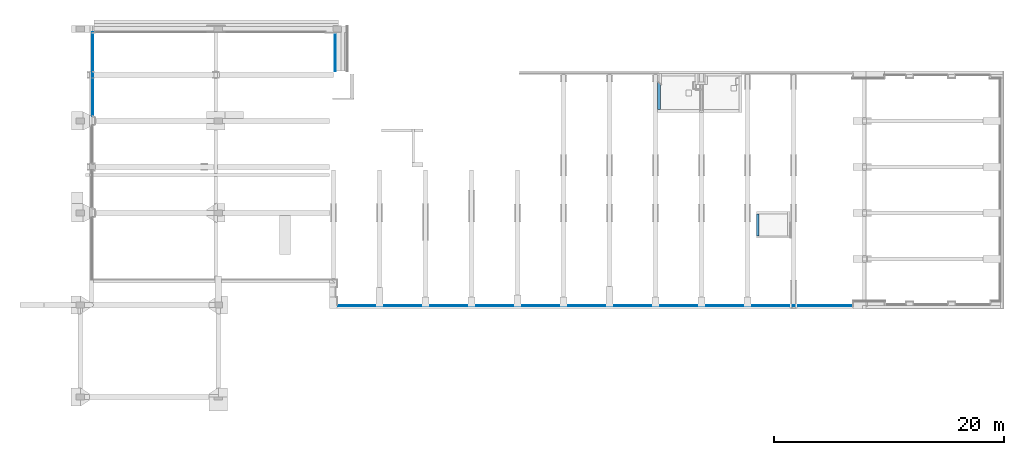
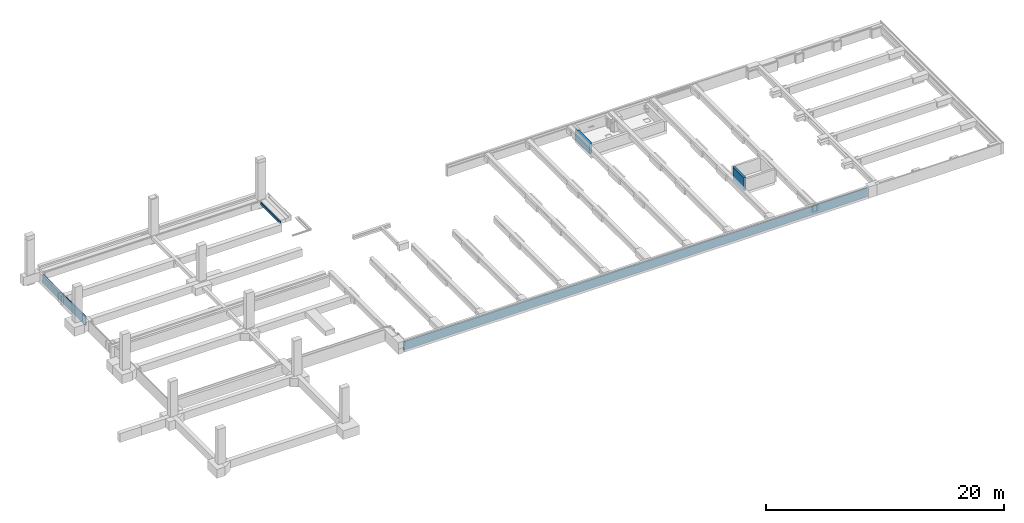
# One storey, part 11 of 17: 5 walls.
"""IFC2X3 building model written with IfcOpenShell, lengths in millimetres."""

from ifc_helpers import new_model, entity, si_unit, converted_unit, derived_unit, money_unit, direction, frame, origin_with_axes, place, context, subcontext, project, spatial, faceted_brep, material, type_object, element, save


model = new_model("IFC2X3")

# Units and contexts
model_context = context("Model", 3, precision=0.01, world=origin_with_axes(), true_north=direction((0.0, 1.0)))
body_context = subcontext(model_context, "Body", "Model", "MODEL_VIEW")
ifc_project = project(units=[si_unit("LENGTHUNIT", "METRE", prefix="MILLI"), si_unit("AREAUNIT", "SQUARE_METRE"), si_unit("VOLUMEUNIT", "CUBIC_METRE"), converted_unit("PLANEANGLEUNIT", "DEGREE", entity("IfcPlaneAngleMeasure", 0.0174532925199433), si_unit("PLANEANGLEUNIT", "RADIAN"), dimensions=[0, 0, 0, 0, 0, 0, 0]), money_unit("EUR"), converted_unit("TIMEUNIT", "Year", entity("IfcTimeMeasure", 31557600.0), si_unit("TIMEUNIT", "SECOND"), dimensions=[0, 0, 1, 0, 0, 0, 0]), si_unit("MASSUNIT", "GRAM", prefix="KILO"), si_unit("THERMODYNAMICTEMPERATUREUNIT", "DEGREE_CELSIUS"), si_unit("LUMINOUSINTENSITYUNIT", "LUMEN"), si_unit("ENERGYUNIT", "JOULE", prefix="MEGA"), derived_unit("THERMALCONDUCTANCEUNIT", [(si_unit("POWERUNIT", "WATT"), 1), (si_unit("LENGTHUNIT", "METRE"), -1), (si_unit("THERMODYNAMICTEMPERATUREUNIT", "KELVIN"), -1)]), derived_unit("SPECIFICHEATCAPACITYUNIT", [(si_unit("ENERGYUNIT", "JOULE"), 1), (si_unit("MASSUNIT", "GRAM", prefix="KILO"), -1), (si_unit("THERMODYNAMICTEMPERATUREUNIT", "KELVIN"), -1)]), derived_unit("MASSDENSITYUNIT", [(si_unit("MASSUNIT", "GRAM", prefix="KILO"), 1), (si_unit("VOLUMEUNIT", "CUBIC_METRE"), -1)])], contexts=[model_context])

# Site, building, storey
site_placement = place(None, origin_with_axes())
site = spatial("IfcSite", under=ifc_project, at=site_placement, Name="<site naam>", CompositionType="ELEMENT")
building_placement = place(site_placement, origin_with_axes())
building = spatial("IfcBuilding", under=site, at=building_placement, Name="<Naam gebouw>", CompositionType="ELEMENT")
storey_placement = place(building_placement, frame((0.0, 0.0, -1100.0), z_axis=(0.0, 0.0, 1.0), x_axis=(1.0, 0.0, 0.0)))
storey = spatial("IfcBuildingStorey", under=building, at=storey_placement, Name="-1 Fundering", CompositionType="ELEMENT", Elevation=-1100.0)

# Walls
ifc_material_1 = material(Name="ALG - ISOLATIE")
wall_type_1 = type_object("IfcWallType", Name="ALG - ISOLATIE 85", PredefinedType="NOTDEFINED")
wall_1_placement = place(storey_placement, frame((12300.74601963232, -125.0797075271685, -50.00000000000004), z_axis=(0.0, 0.0, 1.0), x_axis=(0.9999999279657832, 0.0003795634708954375, 0.0)))
element("IfcWall", 1, at=wall_1_placement, inside=storey, type_object=wall_type_1, material=ifc_material_1, Name="21_Binnenwand_ALG", context=body_context, shape_type="Brep", body=[
    faceted_brep([(44899.17106801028, 85.0000000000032, 900.0000000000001), (44899.17106801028, 0.0, 900.0000000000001), (44899.17106801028, 0.0, 0.0), (44899.17106801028, 85.00000000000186, 0.0), (39678.25677724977, 0.0, 900.0000000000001), (39678.28904014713, 85.00000000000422, 900.0000000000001), (39678.25677724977, 0.0, 870.0000000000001), (0.0, 0.0, 870.0000000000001), (0.0, 0.0, 0.0), (0.0, 85.00000000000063, 0.0), (0.0, 85.00000000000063, 870.0000000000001), (39678.28904014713, 85.00000000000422, 870.0000000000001)], [[[0, 1, 2, 3]], [[4, 1, 0, 5]], [[1, 4, 6, 7, 8, 2]], [[9, 3, 2, 8]], [[5, 0, 3, 9, 10, 11]], [[4, 5, 11, 6]], [[11, 10, 7, 6]], [[7, 10, 9, 8]]]),
])
wall_2_placement = place(storey_placement, frame((-8954.999999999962, 16420.45875379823, -100.0000000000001), z_axis=(0.0, 0.0, 1.0), x_axis=(0.0, 1.0, 0.0)))
element("IfcWall", 2, at=wall_2_placement, inside=storey, type_object=wall_type_1, material=ifc_material_1, Name="21_Binnenwand_ALG", context=body_context, shape_type="Brep", body=[
    faceted_brep([(7194.541246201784, -84.99999999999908, 299.9999928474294), (7194.541246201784, 0.0, 299.9999928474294), (7194.541246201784, 0.0, 920.0000000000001), (7194.541246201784, -84.99999999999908, 920.0000000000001), (7279.541246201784, -84.99999999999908, 299.9999928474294), (7279.541246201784, 0.0, 299.9999928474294), (7279.541246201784, 0.0, 0.0), (0.0, 0.0, 0.0), (0.0, 0.0, 920.0000000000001), (0.0, -84.99999999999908, 920.0000000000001), (0.0, -84.99999999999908, 0.0), (7279.541246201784, -84.99999999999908, 0.0)], [[[0, 1, 2, 3]], [[4, 5, 1, 0]], [[6, 7, 8, 2, 1, 5]], [[2, 8, 9, 3]], [[4, 0, 3, 9, 10, 11]], [[4, 11, 6, 5]], [[6, 11, 10, 7]], [[7, 10, 9, 8]]]),
])
wall_3_placement = place(storey_placement, frame((12200.41606438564, 23700.00000000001, 550.0000107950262), z_axis=(0.0, 0.0, 1.0), x_axis=(0.0, -1.0, 0.0)))
element("IfcWall", 3, at=wall_3_placement, inside=storey, type_object=wall_type_1, material=ifc_material_1, Name="21_Binnenwand_ALG", context=body_context, shape_type="Brep", body=[
    faceted_brep([(85.00000000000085, -85.00000000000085, 0.0), (85.00000000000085, -85.00000000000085, 269.9999892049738), (85.00000000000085, -5.994724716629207e-07, 269.9999892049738), (85.00000000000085, 0.0, 0.0), (3375.673568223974, -85.00000000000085, 0.0), (3375.673568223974, -85.00000000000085, 269.9999892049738), (3375.673568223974, -5.994724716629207e-07, 269.9999892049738), (3375.673568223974, 0.0, 0.0)], [[[0, 1, 2, 3]], [[4, 5, 1, 0]], [[5, 6, 2, 1]], [[3, 2, 6, 7]], [[0, 3, 7, 4]], [[7, 6, 5, 4]]]),
])
ifc_material_2 = material(Name="beton")
wall_type_2 = type_object("IfcWallType", Name="beton 250", PredefinedType="NOTDEFINED")
wall_4_placement = place(storey_placement, frame((40175.00000000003, 19400.00008434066, -96.99999999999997), z_axis=(0.0, 0.0, 1.0), x_axis=(0.0, -1.0, 0.0)))
element("IfcWall", 4, at=wall_4_placement, inside=storey, type_object=wall_type_2, material=ifc_material_2, Name="22_Binnenwand_beton", context=body_context, shape_type="Brep", body=[
    faceted_brep([(249.9999999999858, 250.0, 26.99999999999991), (-7.393133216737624e-05, -3.569532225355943e-05, 26.99999999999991), (-7.58270246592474e-06, -3.661057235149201e-06, 1077.0), (249.9999999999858, 250.0, 1077.0), (2425.050260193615, 249.9999999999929, 26.99999999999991), (2425.050261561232, -3.569532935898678e-05, 26.99999999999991), (2425.050261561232, -3.661064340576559e-06, 1077.0), (2425.050260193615, 249.9999999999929, 1077.0)], [[[0, 1, 2, 3]], [[4, 5, 1, 0]], [[1, 5, 6, 2]], [[2, 6, 7, 3]], [[4, 0, 3, 7]], [[5, 4, 7, 6]]]),
])
wall_type_3 = type_object("IfcWallType", Name="beton 200", PredefinedType="NOTDEFINED")
wall_5_placement = place(storey_placement, frame((49000.0000000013, 7904.999998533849, -199.9999999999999), z_axis=(0.0, 0.0, 1.0), x_axis=(0.0, -1.0, 0.0)))
element("IfcWall", 5, at=wall_5_placement, inside=storey, type_object=wall_type_3, material=ifc_material_2, Name="22_Binnenwand_beton", context=body_context, shape_type="Brep", body=[
    faceted_brep([(1900.0, 0.0, 0.0), (1900.0, -200.0000000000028, 0.0), (0.0, -200.0000000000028, 0.0), (0.0, 0.0, 0.0), (1900.0, 0.0, 1300.0), (1900.0, -200.0000000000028, 1300.0), (0.0, -200.0000000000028, 1300.0), (0.0, 0.0, 1300.0)], [[[0, 1, 2, 3]], [[1, 0, 4, 5]], [[1, 5, 6, 2]], [[7, 3, 2, 6]], [[4, 0, 3, 7]], [[5, 4, 7, 6]]]),
])

save(model, "model.ifc")
